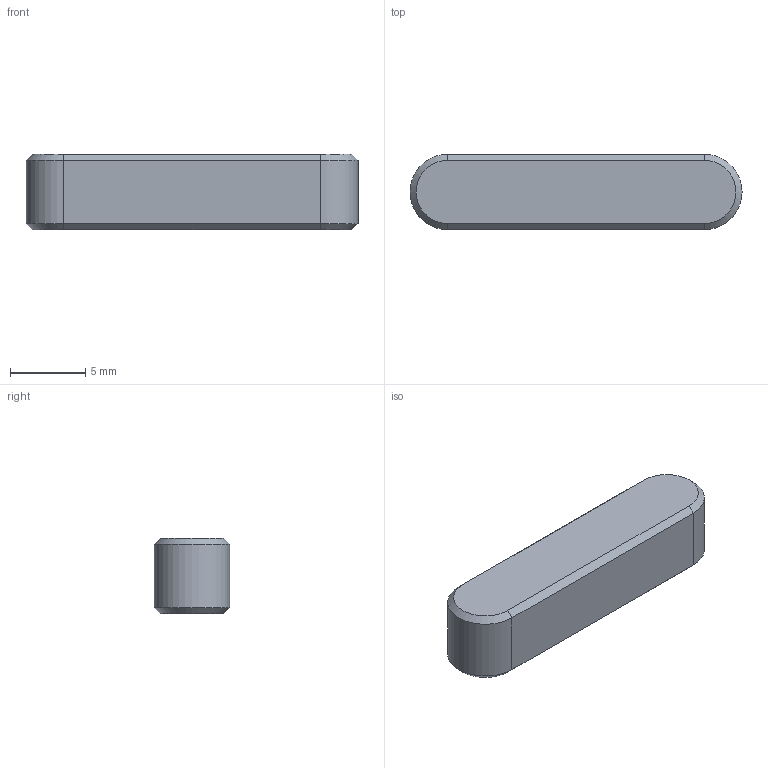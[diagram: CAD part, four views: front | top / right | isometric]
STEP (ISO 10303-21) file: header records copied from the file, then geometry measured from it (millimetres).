
FILE_DESCRIPTION(/* description */ ('키 및 해당 키홈'),/* implementation_level */ '2;1');
FILE_NAME(/* name */ '',/* time_stamp */ '2024-09-10T16:12:09+09:00',/* author */ ('jhkim'),/* organization */ (''),/* preprocessor_version */ 'ST-DEVELOPER v20',/* originating_system */ 'Autodesk Inventor 2025',/* authorisation */ '');
FILE_SCHEMA (('AUTOMOTIVE_DESIGN { 1 0 10303 214 3 1 1 }'));
Length unit declared in the file: millimetre
Products named in the file (1): 평행키 5x5x22
Bounding box: 22 x 5 x 5 mm (x, y, z)
Volume: 515.4 mm3; surface area: 434.1 mm2
Topology: 1 solids, 1 shells, 14 faces, 28 edges, 16 vertices
Faces by surface type: plane 8, cone 4, cylinder 2
Entity records: 399 total; most frequent: DIRECTION 66, CARTESIAN_POINT 59, ORIENTED_EDGE 56, EDGE_CURVE 28, AXIS2_PLACEMENT_3D 23, LINE 20, VECTOR 20, VERTEX_POINT 16
